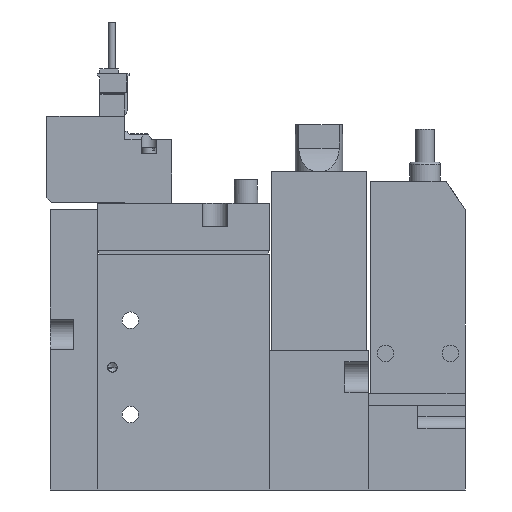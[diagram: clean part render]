
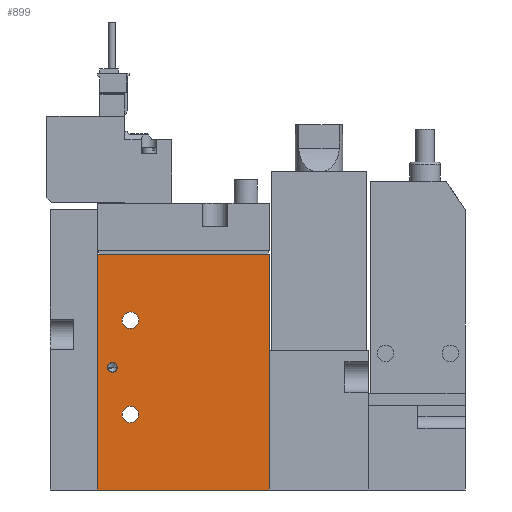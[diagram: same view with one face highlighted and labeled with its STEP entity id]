
A CAD part, left-side view. The second image highlights one B-rep face of the part: STEP entity #899.
In plain terms, the highlighted planar face has unit normal (-1, 0, 0) as drawn and (1, 0, 0) by its records, which use the part's own axes.
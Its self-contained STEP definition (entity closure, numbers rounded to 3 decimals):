
#899=ADVANCED_FACE('',(#1359,#1360,#1361,#1362),#1363,.F.);
#1359=FACE_BOUND('',#2220,.T.);
#1360=FACE_BOUND('',#2221,.T.);
#1361=FACE_BOUND('',#2222,.T.);
#1362=FACE_OUTER_BOUND('',#2223,.T.);
#1363=PLANE('',#2224);
#2220=EDGE_LOOP('',(#3317));
#2221=EDGE_LOOP('',(#3318));
#2222=EDGE_LOOP('',(#3319));
#2223=EDGE_LOOP('',(#3320,#3321,#3322,#3323));
#2224=AXIS2_PLACEMENT_3D('',#3324,#3325,#3326);
#3317=ORIENTED_EDGE('',*,*,#6028,.F.);
#3318=ORIENTED_EDGE('',*,*,#6029,.T.);
#3319=ORIENTED_EDGE('',*,*,#6022,.T.);
#3320=ORIENTED_EDGE('',*,*,#6017,.T.);
#3321=ORIENTED_EDGE('',*,*,#6014,.F.);
#3322=ORIENTED_EDGE('',*,*,#6026,.F.);
#3323=ORIENTED_EDGE('',*,*,#6019,.T.);
#3324=CARTESIAN_POINT('',(8.5,-19.444,50.0));
#3325=DIRECTION('',(-1.0,0.0,0.0));
#3326=DIRECTION('',(0.0,0.0,1.0));
#6014=EDGE_CURVE('',#7003,#7001,#7005,.T.);
#6017=EDGE_CURVE('',#7010,#7001,#7011,.T.);
#6019=EDGE_CURVE('',#7013,#7010,#7014,.T.);
#6022=EDGE_CURVE('',#7018,#7018,#7019,.T.);
#6026=EDGE_CURVE('',#7013,#7003,#7024,.T.);
#6028=EDGE_CURVE('',#7027,#7027,#7028,.T.);
#6029=EDGE_CURVE('',#7029,#7029,#7030,.T.);
#7001=VERTEX_POINT('',#8689);
#7003=VERTEX_POINT('',#8692);
#7005=LINE('',#8695,#8696);
#7010=VERTEX_POINT('',#8701);
#7011=LINE('',#8702,#8703);
#7013=VERTEX_POINT('',#8706);
#7014=LINE('',#8707,#8708);
#7018=VERTEX_POINT('',#8713);
#7019=CIRCLE('',#8714,1.75);
#7024=LINE('',#8719,#8720);
#7027=VERTEX_POINT('',#8723);
#7028=CIRCLE('',#8724,1.0);
#7029=VERTEX_POINT('',#8725);
#7030=CIRCLE('',#8726,1.75);
#8689=CARTESIAN_POINT('',(8.5,17.056,0.0));
#8692=CARTESIAN_POINT('',(8.5,17.056,50.0));
#8695=CARTESIAN_POINT('',(8.5,17.056,50.0));
#8696=VECTOR('',#10903,1.0);
#8701=CARTESIAN_POINT('',(8.5,-19.444,0.0));
#8702=CARTESIAN_POINT('',(8.5,-19.444,0.0));
#8703=VECTOR('',#10910,1.0);
#8706=CARTESIAN_POINT('',(8.5,-19.444,50.0));
#8707=CARTESIAN_POINT('',(8.5,-19.444,50.0));
#8708=VECTOR('',#10912,1.0);
#8713=CARTESIAN_POINT('',(8.5,-10.694,16.0));
#8714=AXIS2_PLACEMENT_3D('',#10917,#10918,#10919);
#8719=CARTESIAN_POINT('',(8.5,-19.444,50.0));
#8720=VECTOR('',#10926,1.0);
#8723=CARTESIAN_POINT('',(8.5,-17.244,26.0));
#8724=AXIS2_PLACEMENT_3D('',#10930,#10931,#10932);
#8725=CARTESIAN_POINT('',(8.5,-10.694,36.0));
#8726=AXIS2_PLACEMENT_3D('',#10933,#10934,#10935);
#10903=DIRECTION('',(0.0,0.0,-1.0));
#10910=DIRECTION('',(0.0,1.0,0.0));
#10912=DIRECTION('',(0.0,0.0,-1.0));
#10917=CARTESIAN_POINT('',(8.5,-12.444,16.0));
#10918=DIRECTION('',(-1.0,0.0,0.0));
#10919=DIRECTION('',(0.0,1.0,0.0));
#10926=DIRECTION('',(0.0,1.0,0.0));
#10930=CARTESIAN_POINT('',(8.5,-16.244,26.0));
#10931=DIRECTION('',(1.0,0.,0.0));
#10932=DIRECTION('',(0.,-1.0,0.0));
#10933=CARTESIAN_POINT('',(8.5,-12.444,36.0));
#10934=DIRECTION('',(-1.0,0.0,0.0));
#10935=DIRECTION('',(0.0,1.0,0.0));
